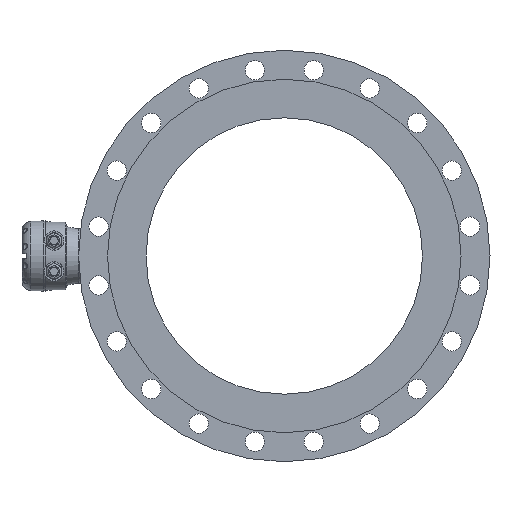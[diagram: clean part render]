
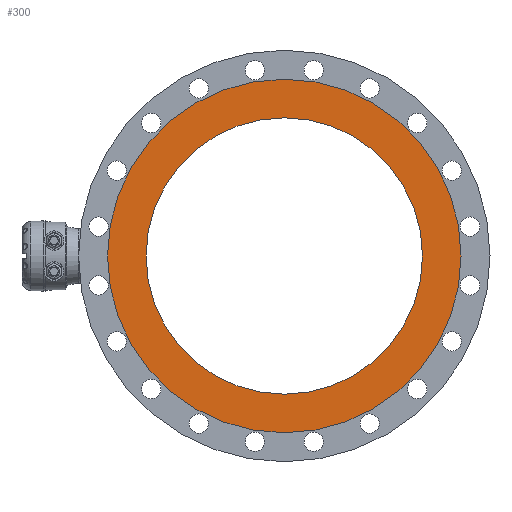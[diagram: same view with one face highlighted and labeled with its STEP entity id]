
A CAD part, left-side view. The second image highlights one B-rep face of the part: STEP entity #300.
In plain terms, the highlighted planar face has unit normal (-1, 0, 0).
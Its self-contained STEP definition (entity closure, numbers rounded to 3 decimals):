
#2 = EDGE_CURVE ( 'NONE', #11012, #11012, #8769, .T. ) ;
#300 = ADVANCED_FACE ( 'NONE', ( #8873, #8872 ), #12626, .T. ) ;
#1248 = ORIENTED_EDGE ( 'NONE', *, *, #3680, .T. ) ;
#1249 = ORIENTED_EDGE ( 'NONE', *, *, #2, .T. ) ;
#1416 = EDGE_LOOP ( 'NONE', ( #1249 ) ) ;
#1653 = EDGE_LOOP ( 'NONE', ( #1248 ) ) ;
#2408 = CIRCLE ( 'NONE', #6394, 215. ) ;
#3680 = EDGE_CURVE ( 'NONE', #11275, #11275, #2408, .T. ) ;
#6103 = AXIS2_PLACEMENT_3D ( 'NONE', #13198, #12308, #13075 ) ;
#6138 = AXIS2_PLACEMENT_3D ( 'NONE', #12633, #12652, #12655 ) ;
#6394 = AXIS2_PLACEMENT_3D ( 'NONE', #11991, #11995, #11997 ) ;
#8769 = CIRCLE ( 'NONE', #6103, 275. ) ;
#8872 = FACE_OUTER_BOUND ( 'NONE', #1416, .T. ) ;
#8873 = FACE_BOUND ( 'NONE', #1653, .T. ) ;
#11012 = VERTEX_POINT ( 'NONE', #11028 ) ;
#11028 = CARTESIAN_POINT ( 'NONE',  ( -294.805, -308.517, 264.457 ) ) ;
#11275 = VERTEX_POINT ( 'NONE', #11277 ) ;
#11277 = CARTESIAN_POINT ( 'NONE',  ( -294.805, -308.517, -225.543 ) ) ;
#11991 = CARTESIAN_POINT ( 'NONE',  ( -294.805, -308.517, -10.543 ) ) ;
#11995 = DIRECTION ( 'NONE',  ( 1., 0., 0. ) ) ;
#11997 = DIRECTION ( 'NONE',  ( 0., 0., -1. ) ) ;
#12308 = DIRECTION ( 'NONE',  ( -1., 0., 0. ) ) ;
#12626 = PLANE ( 'NONE',  #6138 ) ;
#12633 = CARTESIAN_POINT ( 'NONE',  ( -294.805, -93.517, -10.543 ) ) ;
#12652 = DIRECTION ( 'NONE',  ( -1., 0., 0. ) ) ;
#12655 = DIRECTION ( 'NONE',  ( 0., 0., 1. ) ) ;
#13075 = DIRECTION ( 'NONE',  ( 0., 0., 1. ) ) ;
#13198 = CARTESIAN_POINT ( 'NONE',  ( -294.805, -308.517, -10.543 ) ) ;
